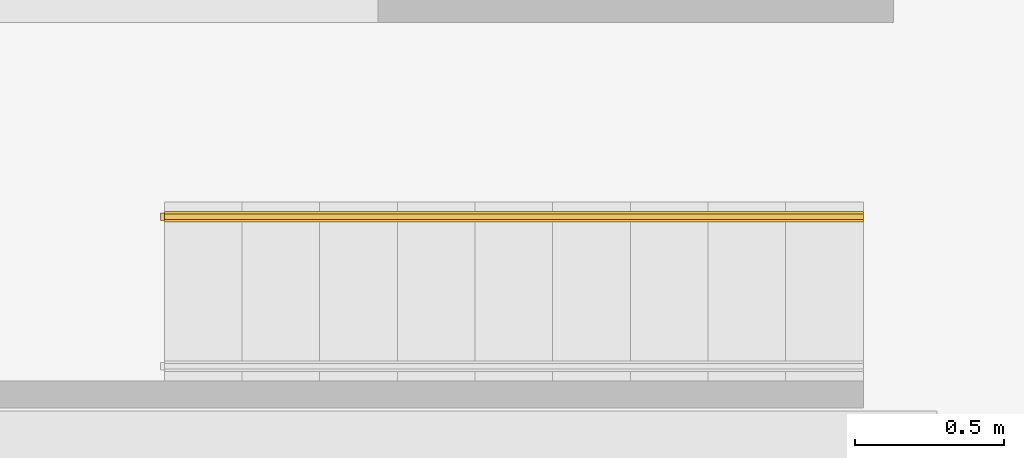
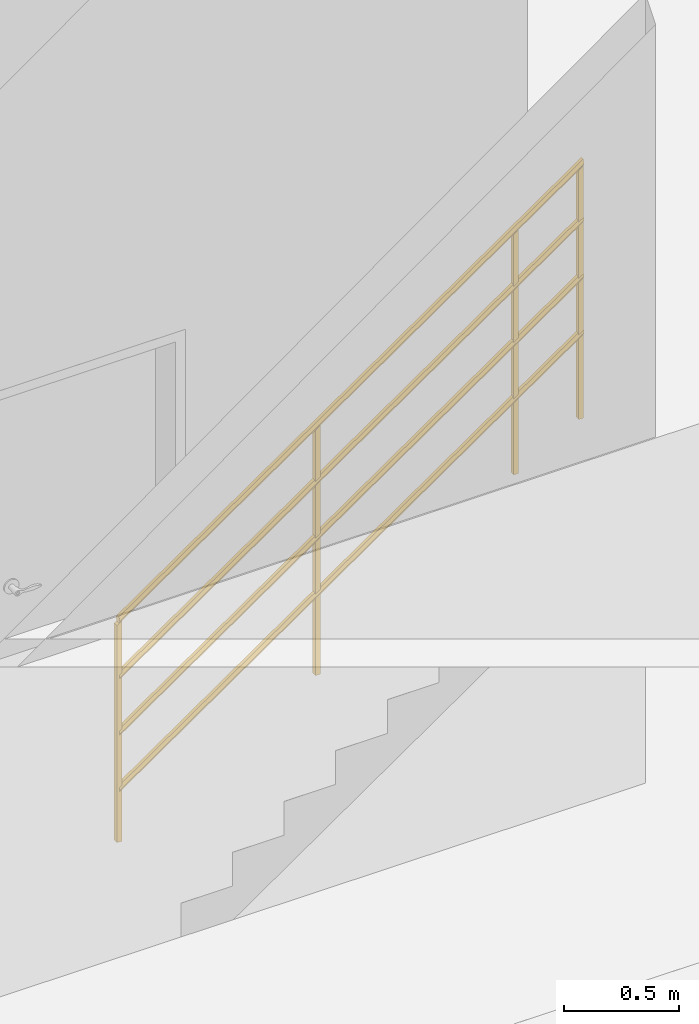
# One storey, part 27 of 30: 1 railing, 1 element without a shape of its own.
"""IFC2X3 building model written with IfcOpenShell, lengths in millimetres."""

import ifcopenshell
import ifcopenshell.guid

model = None  # the IFC model being written
_history = None  # IfcOwnerHistory: only IFC2X3 demands one
_inside = {}  # id of a spatial element -> (the spatial element, [elements in it])
_under = {}  # id of a project, library or spatial element -> (it, [spatial elements below it])
_declared = {}  # id of a project -> (the project, [libraries it declares])
_typed = {}  # id of a type object -> (the type object, [elements of that type])
_made_of = {}  # id of a material, layer set ... -> (it, [elements and type objects made of it])


def new_model(schema):
    """Start an empty IFC model of exactly this schema.

    Asked for "IFC4X3", IfcOpenShell would pick the latest addendum, in which some entities
    have other attributes; the version numbers below select the first issue.
    IFC2X3 requires an IfcOwnerHistory on every rooted entity: one is made here for all.
    """
    global model, _history
    if schema == "IFC4X3":
        model = ifcopenshell.file(schema_version=(4, 3, 0, 0))
    else:
        model = ifcopenshell.file(schema=schema)
    _inside.clear()
    _under.clear()
    _declared.clear()
    _typed.clear()
    _made_of.clear()
    _history = None
    if model.schema == "IFC2X3":
        org = make("IfcOrganization", Name="unknown")
        user = make(
            "IfcPersonAndOrganization",
            ThePerson=make("IfcPerson", FamilyName="unknown"),
            TheOrganization=org,
        )
        app = make(
            "IfcApplication",
            ApplicationDeveloper=org,
            Version="unknown",
            ApplicationFullName="unknown",
            ApplicationIdentifier="unknown",
        )
        _history = make(
            "IfcOwnerHistory",
            OwningUser=user,
            OwningApplication=app,
            ChangeAction="ADDED",
            CreationDate=0,
        )
    return model


def make(cls, **values):
    """One entity of the class cls with the attributes given. An attribute that is None is left unset."""
    return model.create_entity(
        cls, **{name: value for name, value in values.items() if value is not None}
    )


def entity(cls, *values):
    """Any entity or typed value of the class cls, its attributes in the order of the schema. None: left unset."""
    e = model.create_entity(cls)
    for i, value in enumerate(values):
        if value is not None:
            e[i] = value
    return e


def rooted(cls, **values):
    """An entity with a GlobalId (a new one), such as an element, a storey or a relation."""
    return make(cls, GlobalId=ifcopenshell.guid.new(), OwnerHistory=_history, **values)


def si_unit(unit_type, name, prefix=None):
    """IfcSIUnit, for example si_unit("LENGTHUNIT", "METRE", prefix="MILLI")."""
    return make("IfcSIUnit", UnitType=unit_type, Prefix=prefix, Name=name)


def converted_unit(unit_type, name, factor, base, dimensions=None, offset=None):
    """IfcConversionBasedUnit, such as the inch: factor (a typed value) times the base unit."""
    return make(
        "IfcConversionBasedUnit"
        if offset is None
        else "IfcConversionBasedUnitWithOffset",
        ConversionOffset=offset,
        Dimensions=None
        if dimensions is None
        else entity("IfcDimensionalExponents", *dimensions),
        UnitType=unit_type,
        Name=name,
        ConversionFactor=make(
            "IfcMeasureWithUnit", ValueComponent=factor, UnitComponent=base
        ),
    )


def derived_unit(unit_type, elements):
    """IfcDerivedUnit: a product of units, each with its exponent."""
    return make(
        "IfcDerivedUnit",
        Elements=[
            make("IfcDerivedUnitElement", Unit=unit, Exponent=power)
            for unit, power in elements
        ],
        UnitType=unit_type,
    )


def assignment(units):
    """IfcUnitAssignment: the units of a project."""
    return None if units is None else make("IfcUnitAssignment", Units=units)


def point(xyz):
    """IfcCartesianPoint."""
    return None if xyz is None else make("IfcCartesianPoint", Coordinates=xyz)


def direction(xyz):
    """IfcDirection."""
    return None if xyz is None else make("IfcDirection", DirectionRatios=xyz)


def frame(location, z_axis=None, x_axis=None):
    """IfcAxis2Placement3D, a coordinate frame: its origin and axes. An axis left out is left unset."""
    return make(
        "IfcAxis2Placement3D",
        Location=point(location),
        Axis=direction(z_axis),
        RefDirection=direction(x_axis),
    )


def origin():
    """The frame at (0, 0, 0) with its axes left unset."""
    return frame((0.0, 0.0, 0.0))


def place(relative_to, where):
    """IfcLocalPlacement: puts the frame where relative to a parent placement (None: the world)."""
    return make(
        "IfcLocalPlacement", PlacementRelTo=relative_to, RelativePlacement=where
    )


def context(
    kind, dimensions, precision=None, world=None, true_north=None, identifier=None
):
    """IfcGeometricRepresentationContext, for example the 3D "Model" context."""
    return make(
        "IfcGeometricRepresentationContext",
        ContextIdentifier=identifier,
        ContextType=kind,
        CoordinateSpaceDimension=dimensions,
        Precision=precision,
        WorldCoordinateSystem=world,
        TrueNorth=true_north,
    )


def subcontext(parent, identifier, kind, view, scale=None):
    """IfcGeometricRepresentationSubContext, for example "Body" below "Model"."""
    return make(
        "IfcGeometricRepresentationSubContext",
        ContextIdentifier=identifier,
        ContextType=kind,
        ParentContext=parent,
        TargetScale=scale,
        TargetView=view,
    )


def project(units=None, contexts=None):
    """IfcProject with its units and contexts."""
    return rooted(
        "IfcProject",
        Name="project",
        RepresentationContexts=contexts,
        UnitsInContext=assignment(units),
    )


def spatial(cls, under=None, at=None, **own):
    """A site, building, storey or space (cls), placed at a placement, below another one or the project."""
    s = rooted(cls, ObjectPlacement=at, **own)
    if under is not None:
        _under.setdefault(under.id(), (under, []))[1].append(s)
    return s


def faces_of(points, faces, orient=None, outer=None):
    """IfcFace entities. A face is a list of loops; a loop is a list of indices into points, from 0.

    orient and outer hold one flag for each loop. By default every Orientation is true, the
    first loop of a face is its IfcFaceOuterBound and the others are IfcFaceBound.
    """
    made = []
    for i, loops in enumerate(faces):
        bounds = []
        for j, loop in enumerate(loops):
            is_outer = j == 0 if outer is None else outer[i][j]
            bounds.append(
                make(
                    "IfcFaceOuterBound" if is_outer else "IfcFaceBound",
                    Bound=make("IfcPolyLoop", Polygon=[points[k] for k in loop]),
                    Orientation=True if orient is None else orient[i][j],
                )
            )
        made.append(make("IfcFace", Bounds=bounds))
    return made


def faceted_brep(points, faces, orient=None, outer=None, voids=None):
    """IfcFacetedBrep: a solid bounded by flat faces; with voids (closed shells), ...WithVoids."""
    shared = [point(p) for p in points]
    hull = make("IfcClosedShell", CfsFaces=faces_of(shared, faces, orient, outer))
    if voids is None:
        return make("IfcFacetedBrep", Outer=hull)
    return make(
        "IfcFacetedBrepWithVoids",
        Outer=hull,
        Voids=[
            make(cls, CfsFaces=faces_of(shared, fs, o, b)) for cls, fs, o, b in voids
        ],
    )


def shape(context_of_items, identifier, shape_type, items):
    """IfcShapeRepresentation: the items that make up one representation, for example the "Body"."""
    return make(
        "IfcShapeRepresentation",
        ContextOfItems=context_of_items,
        RepresentationIdentifier=identifier,
        RepresentationType=shape_type,
        Items=items,
    )


def material(Name=None, Category=None):
    """IfcMaterial."""
    return make("IfcMaterial", Name=Name, Category=Category)


def material_list(materials):
    """IfcMaterialList."""
    return make("IfcMaterialList", Materials=materials)


def made_of(thing, what):
    """Note that an element or type object is made of a material, layer set ...; save() writes the relation."""
    if what is not None:
        _made_of.setdefault(what.id(), (what, []))[1].append(thing)
    return thing


def element(
    cls,
    number,
    at=None,
    inside=None,
    cuts=None,
    type_object=None,
    material=None,
    context=None,
    identifier="Body",
    shape_type=None,
    held_by="IfcProductDefinitionShape",
    body=None,
    shapes=None,
    **own,
):
    """One element of the class cls, such as IfcWall. Its Tag is "e" and its number.

    at: its placement. inside: the storey or other place that contains it. cuts: it is an
    opening in that element (IfcRelVoidsElement). A single representation is given by context,
    identifier, shape_type and body (its items); several are given by shapes. held_by: the class
    of the entity that holds the representations. save() writes the other relations.
    """
    e = rooted(cls, Tag="e%d" % number, ObjectPlacement=at, **own)
    if body is not None:
        shapes = [shape(context, identifier, shape_type, body)]
    if shapes is not None:
        e.Representation = make(held_by, Representations=shapes)
    if inside is not None:
        _inside.setdefault(inside.id(), (inside, []))[1].append(e)
    if cuts is not None:
        rooted(
            "IfcRelVoidsElement", RelatingBuildingElement=cuts, RelatedOpeningElement=e
        )
    if type_object is not None:
        _typed.setdefault(type_object.id(), (type_object, []))[1].append(e)
    return made_of(e, material)


def aggregate(whole, parts):
    """IfcRelAggregates: a whole, such as a stair, and the parts it consists of."""
    return rooted("IfcRelAggregates", RelatingObject=whole, RelatedObjects=parts)


def save(model, path):
    """Write the relations noted so far, then the file.

    IfcRelAggregates (storeys below a building ...), IfcRelContainedInSpatialStructure (elements
    in a storey), IfcRelDefinesByType, IfcRelAssociatesMaterial and IfcRelDeclares: one each for
    every whole, place, type object, material and project.
    """
    for whole, parts in _under.values():
        aggregate(whole, parts)
    for where, things in _inside.values():
        rooted(
            "IfcRelContainedInSpatialStructure",
            RelatedElements=things,
            RelatingStructure=where,
        )
    for kind, things in _typed.values():
        rooted("IfcRelDefinesByType", RelatedObjects=things, RelatingType=kind)
    for what, things in _made_of.values():
        rooted("IfcRelAssociatesMaterial", RelatedObjects=things, RelatingMaterial=what)
    for by, libraries in _declared.values():
        rooted("IfcRelDeclares", RelatingContext=by, RelatedDefinitions=libraries)
    model.write(path)


model = new_model("IFC2X3")

# Units and contexts
model_context = context("Model", 3, precision=0.01, world=origin(), true_north=direction((6.123031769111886e-17, 1.0)))
body_context = subcontext(model_context, "Body", "Model", "MODEL_VIEW")
ifc_project = project(units=[si_unit("LENGTHUNIT", "METRE", prefix="MILLI"), si_unit("AREAUNIT", "SQUARE_METRE"), si_unit("VOLUMEUNIT", "CUBIC_METRE"), converted_unit("PLANEANGLEUNIT", "DEGREE", entity("IfcRatioMeasure", 0.017453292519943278), si_unit("PLANEANGLEUNIT", "RADIAN"), dimensions=[0, 0, 0, 0, 0, 0, 0]), si_unit("MASSUNIT", "GRAM", prefix="KILO"), derived_unit("MASSDENSITYUNIT", [(si_unit("MASSUNIT", "GRAM", prefix="KILO"), 1), (si_unit("LENGTHUNIT", "METRE"), -3)]), derived_unit("MOMENTOFINERTIAUNIT", [(si_unit("LENGTHUNIT", "METRE"), 4)]), si_unit("TIMEUNIT", "SECOND"), si_unit("FREQUENCYUNIT", "HERTZ"), si_unit("THERMODYNAMICTEMPERATUREUNIT", "DEGREE_CELSIUS"), derived_unit("THERMALTRANSMITTANCEUNIT", [(si_unit("MASSUNIT", "GRAM", prefix="KILO"), 1), (si_unit("THERMODYNAMICTEMPERATUREUNIT", "KELVIN"), -1), (si_unit("TIMEUNIT", "SECOND"), -3)]), derived_unit("VOLUMETRICFLOWRATEUNIT", [(si_unit("LENGTHUNIT", "METRE"), 3), (si_unit("TIMEUNIT", "SECOND"), -1)]), derived_unit("MASSFLOWRATEUNIT", [(si_unit("MASSUNIT", "GRAM", prefix="KILO"), 1), (si_unit("TIMEUNIT", "SECOND"), -1)]), derived_unit("ROTATIONALFREQUENCYUNIT", [(si_unit("TIMEUNIT", "SECOND"), -1)]), si_unit("ELECTRICCURRENTUNIT", "AMPERE"), si_unit("ELECTRICVOLTAGEUNIT", "VOLT"), si_unit("POWERUNIT", "WATT"), si_unit("FORCEUNIT", "NEWTON", prefix="KILO"), si_unit("ILLUMINANCEUNIT", "LUX"), si_unit("LUMINOUSFLUXUNIT", "LUMEN"), si_unit("LUMINOUSINTENSITYUNIT", "CANDELA"), derived_unit("USERDEFINED", [(si_unit("MASSUNIT", "GRAM", prefix="KILO"), -1), (si_unit("LENGTHUNIT", "METRE"), -2), (si_unit("TIMEUNIT", "SECOND"), 3), (si_unit("LUMINOUSFLUXUNIT", "LUMEN"), 1)]), derived_unit("SOUNDPOWERUNIT", [(si_unit("MASSUNIT", "GRAM", prefix="KILO"), 1), (si_unit("LENGTHUNIT", "METRE"), 2), (si_unit("TIMEUNIT", "SECOND"), -3)]), derived_unit("SOUNDPRESSUREUNIT", [(si_unit("MASSUNIT", "GRAM", prefix="KILO"), 1), (si_unit("LENGTHUNIT", "METRE"), -1), (si_unit("TIMEUNIT", "SECOND"), -2)]), derived_unit("LINEARVELOCITYUNIT", [(si_unit("LENGTHUNIT", "METRE"), 1), (si_unit("TIMEUNIT", "SECOND"), -1)]), si_unit("PRESSUREUNIT", "PASCAL"), derived_unit("USERDEFINED", [(si_unit("LENGTHUNIT", "METRE"), -2), (si_unit("MASSUNIT", "GRAM", prefix="KILO"), 1), (si_unit("TIMEUNIT", "SECOND"), -2)]), derived_unit("LINEARFORCEUNIT", [(si_unit("MASSUNIT", "GRAM", prefix="KILO"), 1), (si_unit("LENGTHUNIT", "METRE"), 1), (si_unit("TIMEUNIT", "SECOND"), -2), (si_unit("LENGTHUNIT", "METRE"), -1)]), derived_unit("PLANARFORCEUNIT", [(si_unit("MASSUNIT", "GRAM", prefix="KILO"), 1), (si_unit("LENGTHUNIT", "METRE"), 1), (si_unit("TIMEUNIT", "SECOND"), -2), (si_unit("LENGTHUNIT", "METRE"), -2)])], contexts=[model_context])

# Site, building, storey
site_placement = place(None, frame((-14167.972527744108, -657.2125860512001, 0.0)))
site = spatial("IfcSite", under=ifc_project, at=site_placement, Name="Default", CompositionType="ELEMENT")
building_placement = place(site_placement, origin())
building = spatial("IfcBuilding", under=site, at=building_placement, Name="Sample Building", CompositionType="ELEMENT")
storey_placement = place(building_placement, frame((0.0, 0.0, -10100.0)))
storey = spatial("IfcBuildingStorey", under=building, at=storey_placement, Name="지하2층", CompositionType="ELEMENT", Elevation=-10100.0)

# Stair, railing
stair_placement = place(storey_placement, origin())
stair = element("IfcStair", 1, at=stair_placement, inside=storey, Name="현장타설 계단:계단", ObjectType="현장타설 계단:ST111-철근콘크리트구조 계단 (직선형)", ShapeType="STRAIGHT_RUN_STAIR")
ifc_material_1 = material(Name="KBIMS-난간")
ifc_material_2 = material(Name="KBIMS-금속재")
ifc_material_list = material_list([ifc_material_1, ifc_material_1, ifc_material_1, ifc_material_1, ifc_material_2, ifc_material_2, ifc_material_2, ifc_material_2])
railing_placement = place(stair_placement, frame((16065.463798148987, 18688.11703575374, -1620.0)))
railing = element("IfcRailing", 2, at=railing_placement, material=ifc_material_list, Name="난간:RL780-금속재 난간", ObjectType="난간:RL780-금속재 난간", PredefinedType="NOTDEFINED", context=body_context, shape_type="Brep", body=[
    faceted_brep([(2000.0, 31.595272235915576, 2540.9615384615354), (2000.0, 31.595272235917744, 1260.0), (2000.0, 6.595272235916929, 1260.0), (2000.0, 6.595272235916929, 2540.9615384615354), (2025.0, 31.595272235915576, 2558.269230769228), (2025.0, 31.595272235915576, 1260.0), (2025.0, 6.595272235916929, 2558.269230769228), (2025.0, 6.595272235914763, 1260.0)], [[[0, 1, 2, 3]], [[4, 5, 1, 0]], [[6, 7, 5, 4]], [[3, 2, 7, 6]], [[3, 6, 4, 0]], [[1, 5, 7, 2]]]),
    faceted_brep([(1000.0, 31.595272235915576, 1848.6538461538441), (1000.0, 31.595272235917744, 540.0), (1000.0, 6.595272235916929, 540.0), (1000.0, 6.595272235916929, 1848.6538461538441), (1025.0, 31.595272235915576, 1865.961538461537), (1025.0, 31.595272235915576, 540.0), (1025.0, 6.595272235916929, 1865.961538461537), (1025.0, 6.595272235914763, 540.0)], [[[0, 1, 2, 3]], [[4, 5, 1, 0]], [[6, 7, 5, 4]], [[3, 2, 7, 6]], [[3, 6, 4, 0]], [[1, 5, 7, 2]]]),
    faceted_brep([(2327.5000000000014, 31.595272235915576, 2767.692307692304), (2327.5000000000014, 31.595272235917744, 1440.0), (2327.5000000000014, 6.595272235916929, 1440.0), (2327.5000000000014, 6.595272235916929, 2767.692307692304), (2352.5, 31.595272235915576, 2785.0), (2352.5000000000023, 31.595272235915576, 1440.0), (2352.5, 6.595272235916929, 2785.0), (2352.5, 6.595272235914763, 1440.0)], [[[0, 1, 2, 3]], [[4, 5, 1, 0]], [[6, 7, 5, 4]], [[3, 2, 7, 6]], [[3, 6, 4, 0]], [[1, 5, 7, 2]]]),
    faceted_brep([(0.0, 31.595272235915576, 1156.346153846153), (0.0, 31.595272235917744, 0.0), (0.0, 6.595272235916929, 0.0), (0.0, 6.595272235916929, 1156.346153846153), (25.0, 31.595272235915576, 1173.6538461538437), (25.0, 31.595272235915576, 0.0), (25.0, 6.595272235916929, 1173.6538461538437), (25.0, 6.595272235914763, 0.0)], [[[0, 1, 2, 3]], [[4, 5, 1, 0]], [[6, 7, 5, 4]], [[3, 2, 7, 6]], [[3, 6, 4, 0]], [[1, 5, 7, 2]]]),
    faceted_brep([(12.50000000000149, 27.84527223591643, 1197.148409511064), (12.500000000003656, 30.032772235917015, 1192.540166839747), (12.50000000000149, 32.22027223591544, 1187.9319241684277), (12.50000000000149, 34.21034233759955, 1183.7395923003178), (12.50000000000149, 36.5952722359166, 1178.7154388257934), (12.50000000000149, 34.21034233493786, 1173.69128534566), (12.50000000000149, 32.22027223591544, 1169.4989534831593), (12.50000000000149, 30.032772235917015, 1164.8907108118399), (12.50000000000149, 27.84527223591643, 1160.282468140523), (12.499999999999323, 23.470272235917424, 1160.282468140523), (12.499999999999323, 19.09527223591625, 1160.282468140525), (12.499999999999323, 14.720272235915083, 1160.282468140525), (12.50000000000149, 10.345272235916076, 1160.282468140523), (12.500000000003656, 8.157772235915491, 1164.8907108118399), (12.50000000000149, 5.970272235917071, 1169.4989534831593), (12.500000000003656, 3.7827722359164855, 1174.1071961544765), (12.50000000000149, 1.5952722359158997, 1178.7154388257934), (12.50000000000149, 3.980202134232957, 1183.7395923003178), (12.50000000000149, 6.365132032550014, 1188.7637457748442), (12.499999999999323, 8.355202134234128, 1192.9560776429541), (12.50000000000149, 10.345272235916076, 1197.148409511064), (12.500000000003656, 14.720272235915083, 1197.148409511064), (12.50000000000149, 19.09527223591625, 1197.1484095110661), (12.50000000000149, 23.470272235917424, 1197.148409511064), (2352.5, 8.157772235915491, 2812.540166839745), (2352.5, 5.970272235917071, 2807.9319241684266), (2352.5, 3.980202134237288, 2803.7395923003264), (2352.5, 1.5952722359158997, 2798.7154388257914), (2352.5, 3.9802021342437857, 2793.691285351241), (2352.5, 5.970272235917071, 2789.4989534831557), (2352.5, 8.157772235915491, 2784.890710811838), (2352.5, 10.345272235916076, 2780.2824681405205), (2352.5, 14.720272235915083, 2780.2824681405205), (2352.5, 19.09527223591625, 2780.2824681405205), (2352.5, 23.470272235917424, 2780.2824681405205), (2352.5, 27.84527223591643, 2780.2824681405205), (2352.5, 29.835342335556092, 2784.474800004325), (2352.5, 31.82541243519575, 2788.667131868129), (2352.5, 34.2103423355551, 2793.691285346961), (2352.5, 36.5952722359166, 2798.7154388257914), (2352.5, 34.40777223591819, 2803.323681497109), (2352.5, 32.22027223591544, 2807.9319241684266), (2352.5, 30.032772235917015, 2812.540166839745), (2352.5, 27.84527223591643, 2817.148409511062), (2352.5, 23.470272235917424, 2817.148409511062), (2352.5, 19.09527223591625, 2817.148409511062), (2352.5, 14.720272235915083, 2817.148409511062), (2352.5, 10.345272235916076, 2817.148409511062)], [[[0, 1, 2, 3, 4, 5, 6, 7, 8, 9, 10, 11, 12, 13, 14, 15, 16, 17, 18, 19, 20, 21, 22, 23]], [[24, 25, 26, 27, 28, 29, 30, 31, 32, 33, 34, 35, 36, 37, 38, 39, 40, 41, 42, 43, 44, 45, 46, 47]], [[44, 43, 0, 23, 22, 21, 20, 47, 46, 45]], [[2, 1, 0, 43, 42, 41, 40, 39, 4, 3]], [[25, 24, 47, 20, 19, 18, 17, 16, 27, 26]], [[8, 7, 6, 5, 4, 39, 38, 37, 36, 35]], [[33, 32, 31, 12, 11, 10, 9, 8, 35, 34]], [[13, 12, 31, 30, 29, 28, 27, 16, 15, 14]]]),
    faceted_brep([(12.50000000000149, 27.84527223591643, 897.1484095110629), (12.500000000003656, 30.032772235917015, 892.5401668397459), (12.50000000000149, 32.22027223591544, 887.9319241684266), (12.50000000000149, 34.21034233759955, 883.7395923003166), (12.50000000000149, 36.5952722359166, 878.7154388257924), (12.50000000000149, 34.21034233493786, 873.6912853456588), (12.50000000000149, 32.22027223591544, 869.4989534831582), (12.50000000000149, 30.032772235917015, 864.8907108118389), (12.50000000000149, 27.84527223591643, 860.2824681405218), (12.499999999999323, 23.470272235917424, 860.2824681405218), (12.499999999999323, 19.09527223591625, 860.282468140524), (12.499999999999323, 14.720272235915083, 860.282468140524), (12.50000000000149, 10.345272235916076, 860.2824681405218), (12.500000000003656, 8.157772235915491, 864.8907108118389), (12.50000000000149, 5.970272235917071, 869.4989534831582), (12.500000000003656, 3.7827722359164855, 874.1071961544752), (12.50000000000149, 1.5952722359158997, 878.7154388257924), (12.50000000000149, 3.980202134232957, 883.7395923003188), (12.50000000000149, 6.365132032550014, 888.7637457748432), (12.499999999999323, 8.355202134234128, 892.956077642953), (12.50000000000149, 10.345272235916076, 897.1484095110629), (12.500000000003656, 14.720272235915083, 897.1484095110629), (12.50000000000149, 19.09527223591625, 897.1484095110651), (12.50000000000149, 23.470272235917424, 897.1484095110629), (2352.5, 8.157772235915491, 2512.5401668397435), (2352.5, 5.970272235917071, 2507.931924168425), (2352.5, 3.980202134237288, 2503.739592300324), (2352.5, 1.5952722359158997, 2498.71543882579), (2352.5, 3.9802021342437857, 2493.69128535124), (2352.5, 5.970272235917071, 2489.4989534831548), (2352.5, 8.157772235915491, 2484.8907108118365), (2352.5, 10.345272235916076, 2480.2824681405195), (2352.5, 14.720272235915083, 2480.2824681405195), (2352.5, 19.09527223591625, 2480.2824681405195), (2352.5, 23.470272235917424, 2480.2824681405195), (2352.5, 27.84527223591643, 2480.2824681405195), (2352.5, 29.835342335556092, 2484.4748000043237), (2352.5, 31.82541243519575, 2488.6671318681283), (2352.5, 34.2103423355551, 2493.6912853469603), (2352.5, 36.5952722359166, 2498.71543882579), (2352.5, 34.40777223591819, 2503.3236814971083), (2352.5, 32.22027223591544, 2507.931924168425), (2352.5, 30.032772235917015, 2512.5401668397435), (2352.5, 27.84527223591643, 2517.148409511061), (2352.5, 23.470272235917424, 2517.148409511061), (2352.5, 19.09527223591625, 2517.148409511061), (2352.5, 14.720272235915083, 2517.148409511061), (2352.5, 10.345272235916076, 2517.148409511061)], [[[0, 1, 2, 3, 4, 5, 6, 7, 8, 9, 10, 11, 12, 13, 14, 15, 16, 17, 18, 19, 20, 21, 22, 23]], [[24, 25, 26, 27, 28, 29, 30, 31, 32, 33, 34, 35, 36, 37, 38, 39, 40, 41, 42, 43, 44, 45, 46, 47]], [[44, 43, 0, 23, 22, 21, 20, 47, 46, 45]], [[2, 1, 0, 43, 42, 41, 40, 39, 4, 3]], [[25, 24, 47, 20, 19, 18, 17, 16, 27, 26]], [[8, 7, 6, 5, 4, 39, 38, 37, 36, 35]], [[33, 32, 31, 12, 11, 10, 9, 8, 35, 34]], [[13, 12, 31, 30, 29, 28, 27, 16, 15, 14]]]),
    faceted_brep([(12.50000000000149, 36.5952722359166, 578.7154388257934), (12.50000000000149, 34.21034233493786, 573.6912853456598), (12.50000000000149, 32.22027223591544, 569.498953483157), (12.50000000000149, 30.032772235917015, 564.89071081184), (12.50000000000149, 27.84527223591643, 560.2824681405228), (12.50000000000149, 23.470272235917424, 560.2824681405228), (12.50000000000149, 19.09527223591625, 560.2824681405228), (12.50000000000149, 14.720272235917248, 560.2824681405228), (12.50000000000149, 10.345272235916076, 560.2824681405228), (12.499999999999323, 8.157772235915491, 564.89071081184), (12.50000000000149, 5.970272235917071, 569.498953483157), (12.500000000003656, 3.7827722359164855, 574.1071961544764), (12.50000000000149, 1.5952722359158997, 578.7154388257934), (12.50000000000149, 3.980202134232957, 583.7395923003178), (12.50000000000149, 6.365132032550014, 588.7637457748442), (12.499999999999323, 8.355202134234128, 592.956077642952), (12.50000000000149, 10.345272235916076, 597.1484095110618), (12.500000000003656, 14.720272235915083, 597.1484095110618), (12.50000000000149, 19.09527223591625, 597.1484095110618), (12.50000000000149, 23.470272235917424, 597.1484095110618), (12.50000000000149, 27.84527223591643, 597.1484095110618), (12.500000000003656, 30.032772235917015, 592.5401668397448), (12.50000000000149, 32.22027223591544, 587.9319241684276), (12.50000000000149, 34.21034233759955, 583.7395923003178), (2352.5, 8.157772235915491, 2212.5401668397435), (2352.5, 5.970272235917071, 2207.931924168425), (2352.5, 3.980202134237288, 2203.739592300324), (2352.5, 1.5952722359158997, 2198.71543882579), (2352.5, 3.9802021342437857, 2193.691285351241), (2352.5, 5.970272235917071, 2189.4989534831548), (2352.5, 8.157772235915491, 2184.890710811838), (2352.5, 10.345272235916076, 2180.2824681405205), (2352.5, 14.720272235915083, 2180.2824681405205), (2352.5, 19.09527223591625, 2180.2824681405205), (2352.5, 23.470272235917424, 2180.2824681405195), (2352.5, 27.84527223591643, 2180.2824681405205), (2352.5, 29.835342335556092, 2184.474800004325), (2352.5, 31.82541243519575, 2188.667131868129), (2352.5000000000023, 34.210342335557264, 2193.6912853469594), (2352.5, 36.5952722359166, 2198.71543882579), (2352.5, 34.40777223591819, 2203.3236814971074), (2352.5, 32.22027223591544, 2207.931924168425), (2352.5, 30.032772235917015, 2212.5401668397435), (2352.5, 27.84527223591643, 2217.1484095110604), (2352.5, 23.470272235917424, 2217.1484095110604), (2352.5, 19.09527223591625, 2217.1484095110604), (2352.5, 14.720272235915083, 2217.1484095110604), (2352.5, 10.345272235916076, 2217.1484095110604)], [[[0, 1, 2, 3, 4, 5, 6, 7, 8, 9, 10, 11, 12, 13, 14, 15, 16, 17, 18, 19, 20, 21, 22, 23]], [[24, 25, 26, 27, 28, 29, 30, 31, 32, 33, 34, 35, 36, 37, 38, 39, 40, 41, 42, 43, 44, 45, 46, 47]], [[44, 43, 20, 19, 18, 17, 16, 47, 46, 45]], [[22, 21, 20, 43, 42, 41, 40, 39, 0, 23]], [[25, 24, 47, 16, 15, 14, 13, 12, 27, 26]], [[4, 3, 2, 1, 0, 39, 38, 37, 36, 35]], [[33, 32, 31, 8, 7, 6, 5, 4, 35, 34]], [[9, 8, 31, 30, 29, 28, 27, 12, 11, 10]]]),
    faceted_brep([(12.50000000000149, 27.84527223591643, 297.1484095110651), (12.500000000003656, 30.032772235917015, 292.540166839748), (12.50000000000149, 32.22027223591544, 287.9319241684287), (12.50000000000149, 34.21034233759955, 283.73959230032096), (12.50000000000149, 36.5952722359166, 278.7154388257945), (12.50000000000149, 34.21034233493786, 273.6912853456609), (12.50000000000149, 32.22027223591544, 269.4989534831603), (12.50000000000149, 30.032772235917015, 264.890710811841), (12.50000000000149, 27.84527223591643, 260.2824681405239), (12.499999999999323, 23.470272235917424, 260.2824681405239), (12.499999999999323, 19.09527223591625, 260.2824681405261), (12.499999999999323, 14.720272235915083, 260.2824681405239), (12.50000000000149, 10.345272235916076, 260.2824681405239), (12.500000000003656, 8.157772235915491, 264.890710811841), (12.50000000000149, 5.970272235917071, 269.4989534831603), (12.500000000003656, 3.7827722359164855, 274.1071961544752), (12.50000000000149, 1.5952722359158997, 278.7154388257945), (12.50000000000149, 3.980202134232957, 283.73959230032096), (12.50000000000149, 6.365132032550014, 288.7637457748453), (12.499999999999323, 8.355202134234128, 292.95607764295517), (12.50000000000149, 10.345272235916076, 297.1484095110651), (12.500000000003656, 14.720272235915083, 297.1484095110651), (12.50000000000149, 19.09527223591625, 297.1484095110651), (12.50000000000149, 23.470272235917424, 297.1484095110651), (2352.5, 8.157772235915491, 1912.5401668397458), (2352.5, 5.970272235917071, 1907.9319241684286), (2352.5, 3.980202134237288, 1903.7395923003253), (2352.5, 1.5952722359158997, 1898.7154388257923), (2352.5, 3.9802021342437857, 1893.691285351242), (2352.5, 5.970272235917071, 1889.498953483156), (2352.5, 8.157772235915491, 1884.8907108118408), (2352.5, 10.345272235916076, 1880.2824681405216), (2352.5, 14.720272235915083, 1880.2824681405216), (2352.5, 19.09527223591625, 1880.2824681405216), (2352.5, 23.470272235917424, 1880.2824681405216), (2352.5, 27.84527223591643, 1880.2824681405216), (2352.5, 29.835342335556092, 1884.474800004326), (2352.5, 31.82541243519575, 1888.6671318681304), (2352.5, 34.2103423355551, 1893.6912853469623), (2352.5, 36.5952722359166, 1898.7154388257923), (2352.5, 34.40777223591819, 1903.3236814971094), (2352.5, 32.22027223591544, 1907.9319241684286), (2352.5, 30.032772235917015, 1912.5401668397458), (2352.5, 27.84527223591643, 1917.1484095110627), (2352.5, 23.470272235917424, 1917.1484095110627), (2352.5, 19.09527223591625, 1917.1484095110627), (2352.5, 14.720272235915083, 1917.1484095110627), (2352.5, 10.345272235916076, 1917.1484095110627)], [[[0, 1, 2, 3, 4, 5, 6, 7, 8, 9, 10, 11, 12, 13, 14, 15, 16, 17, 18, 19, 20, 21, 22, 23]], [[24, 25, 26, 27, 28, 29, 30, 31, 32, 33, 34, 35, 36, 37, 38, 39, 40, 41, 42, 43, 44, 45, 46, 47]], [[44, 43, 0, 23, 22, 21, 20, 47, 46, 45]], [[2, 1, 0, 43, 42, 41, 40, 39, 4, 3]], [[25, 24, 47, 20, 19, 18, 17, 16, 27, 26]], [[8, 7, 6, 5, 4, 39, 38, 37, 36, 35]], [[33, 32, 31, 12, 11, 10, 9, 8, 35, 34]], [[13, 12, 31, 30, 29, 28, 27, 16, 15, 14]]]),
])
aggregate(stair, [railing])

save(model, "model.ifc")
